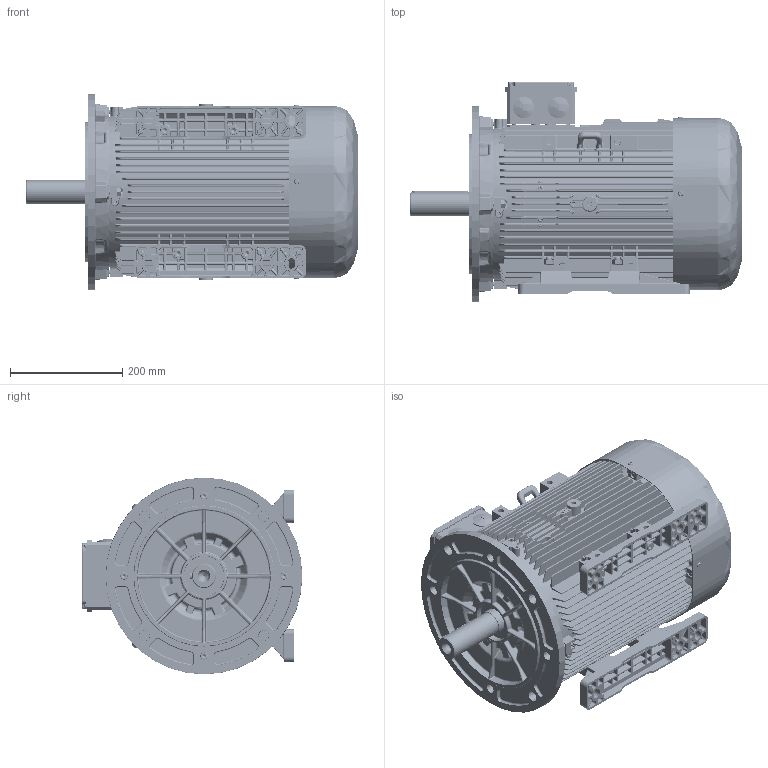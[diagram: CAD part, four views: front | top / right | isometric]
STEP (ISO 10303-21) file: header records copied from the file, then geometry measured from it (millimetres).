
FILE_DESCRIPTION(/* description */ (''),/* implementation_level */ '2;1');
FILE_NAME(/* name */ '160PA.stp',/* time_stamp */ '2017-04-20T16:33:22+03:00',/* author */ (''),/* organization */ (''),/* preprocessor_version */ 'ST-DEVELOPER v15',/* originating_system */ 'SIEMENS PLM Software NX 9.0',/* authorisation */ '');
FILE_SCHEMA (('CONFIG_CONTROL_DESIGN'));
Products named in the file (1): AR-000000806565_001
Bounding box: 590.5 x 392.75 x 350 mm (x, y, z)
Volume: 7558264.6 mm3; surface area: 2598600.4 mm2
Topology: 1 solids, 10 shells, 15484 faces, 36959 edges, 20961 vertices
Faces by surface type: cylinder 4992, bspline 4788, plane 3312, sphere 969, torus 781, cone 642
Full cylindrical faces by diameter (mm): 2.5 x7, 4 x3, 4.2 x4, 4.3 x4, 5.5 x8, 5.6 x1, 8 x4, 8.028 x3, 8.5 x7, 10 x1, 14 x1, 15 x1, 16.5 x4, 17 x1, 25 x1, 34.2 x2, 40 x1, 41.6 x1, 42 x1, 45 x2, 55 x1, 72 x2, 85.63 x1, 91 x1, 158 x1, 168 x1, 250 x1, 267 x4, 272.5 x1
Entity records: 524842 total; most frequent: CARTESIAN_POINT 194768, ORIENTED_EDGE 71350, DIRECTION 67203, EDGE_CURVE 35675, AXIS2_PLACEMENT_3D 27237, VERTEX_POINT 20751, EDGE_LOOP 16593, ADVANCED_FACE 15482
